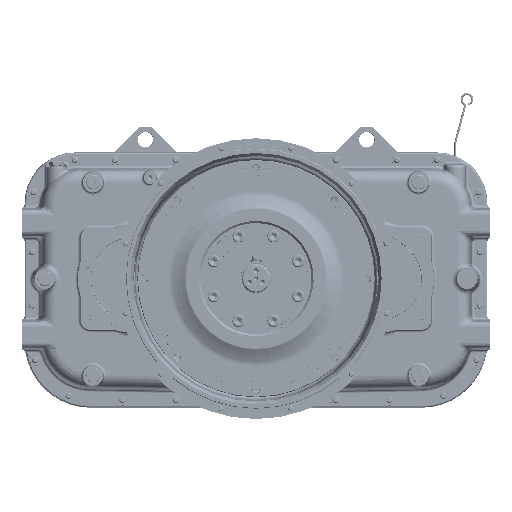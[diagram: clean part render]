
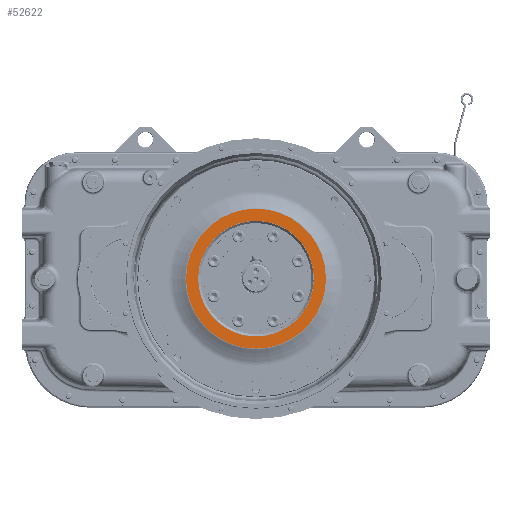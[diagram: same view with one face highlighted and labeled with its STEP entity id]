
A CAD part, top view. The second image highlights one B-rep face of the part: STEP entity #52622.
In plain terms, the highlighted planar face has unit normal (0, 0, 1).
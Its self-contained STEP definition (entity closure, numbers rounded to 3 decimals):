
#49838 = EDGE_CURVE ( 'NONE', #49865, #50238, #475319, .T. ) ;
#49865 = VERTEX_POINT ( 'NONE', #476138 ) ;
#50190 = EDGE_CURVE ( 'NONE', #50199, #50717, #479463, .T. ) ;
#50199 = VERTEX_POINT ( 'NONE', #479403 ) ;
#50238 = VERTEX_POINT ( 'NONE', #479762 ) ;
#50717 = VERTEX_POINT ( 'NONE', #484755 ) ;
#52201 = EDGE_CURVE ( 'NONE', #50717, #50199, #497390, .T. ) ;
#52334 = ORIENTED_EDGE ( 'NONE', *, *, #50190, .F. ) ;
#52349 = ORIENTED_EDGE ( 'NONE', *, *, #52201, .F. ) ;
#52355 = EDGE_LOOP ( 'NONE', ( #52395, #52874 ) ) ;
#52395 = ORIENTED_EDGE ( 'NONE', *, *, #52432, .T. ) ;
#52432 = EDGE_CURVE ( 'NONE', #50238, #49865, #498935, .T. ) ;
#52622 = ADVANCED_FACE ( 'NONE', ( #500311, #500324 ), #500505, .T. ) ;
#52636 = EDGE_LOOP ( 'NONE', ( #52334, #52349 ) ) ;
#52874 = ORIENTED_EDGE ( 'NONE', *, *, #49838, .T. ) ;
#475312 = DIRECTION ( 'NONE',  ( 0., 0., 1. ) ) ;
#475316 = AXIS2_PLACEMENT_3D ( 'NONE', #475345, #475312, #475718 ) ;
#475319 = CIRCLE ( 'NONE', #475316, 137.5 ) ;
#475345 = CARTESIAN_POINT ( 'NONE',  ( 0., 0., 0.2 ) ) ;
#475718 = DIRECTION ( 'NONE',  ( 1., 0., 0. ) ) ;
#476138 = CARTESIAN_POINT ( 'NONE',  ( 137.5, 0., 0.2 ) ) ;
#479403 = CARTESIAN_POINT ( 'NONE',  ( -113.75, 0., 0.2 ) ) ;
#479443 = DIRECTION ( 'NONE',  ( -1., 0., 0. ) ) ;
#479449 = DIRECTION ( 'NONE',  ( 0., 0., 1. ) ) ;
#479454 = CARTESIAN_POINT ( 'NONE',  ( 0., 0., 0.2 ) ) ;
#479459 = AXIS2_PLACEMENT_3D ( 'NONE', #479454, #479449, #479443 ) ;
#479463 = CIRCLE ( 'NONE', #479459, 113.75 ) ;
#479762 = CARTESIAN_POINT ( 'NONE',  ( -137.5, 0., 0.2 ) ) ;
#484755 = CARTESIAN_POINT ( 'NONE',  ( 113.75, 0., 0.2 ) ) ;
#497390 = CIRCLE ( 'NONE', #497782, 113.75 ) ;
#497773 = DIRECTION ( 'NONE',  ( -1., 0., 0. ) ) ;
#497777 = DIRECTION ( 'NONE',  ( 0., 0., 1. ) ) ;
#497781 = CARTESIAN_POINT ( 'NONE',  ( 0., 0., 0.2 ) ) ;
#497782 = AXIS2_PLACEMENT_3D ( 'NONE', #497781, #497777, #497773 ) ;
#498920 = DIRECTION ( 'NONE',  ( -1., 0., 0. ) ) ;
#498924 = DIRECTION ( 'NONE',  ( 0., 0., 1. ) ) ;
#498928 = CARTESIAN_POINT ( 'NONE',  ( 0., 0., 0.2 ) ) ;
#498930 = AXIS2_PLACEMENT_3D ( 'NONE', #498928, #498924, #498920 ) ;
#498935 = CIRCLE ( 'NONE', #498930, 137.5 ) ;
#500311 = FACE_BOUND ( 'NONE', #52636, .T. ) ;
#500324 = FACE_OUTER_BOUND ( 'NONE', #52355, .T. ) ;
#500478 = DIRECTION ( 'NONE',  ( 1., 0., 0. ) ) ;
#500482 = DIRECTION ( 'NONE',  ( 0., 0., 1. ) ) ;
#500488 = CARTESIAN_POINT ( 'NONE',  ( 137.5, -141.618, 0.2 ) ) ;
#500491 = AXIS2_PLACEMENT_3D ( 'NONE', #500488, #500482, #500478 ) ;
#500505 = PLANE ( 'NONE',  #500491 ) ;
